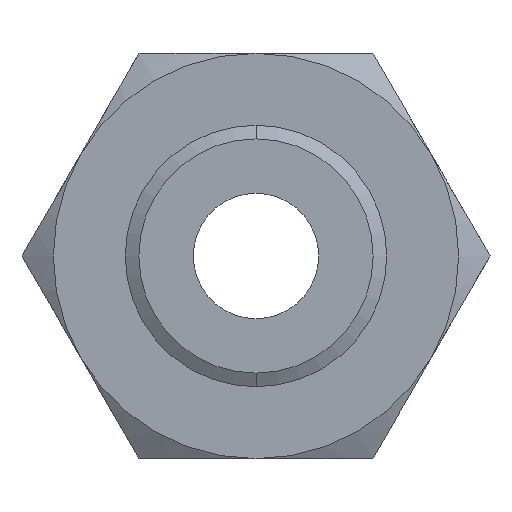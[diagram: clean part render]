
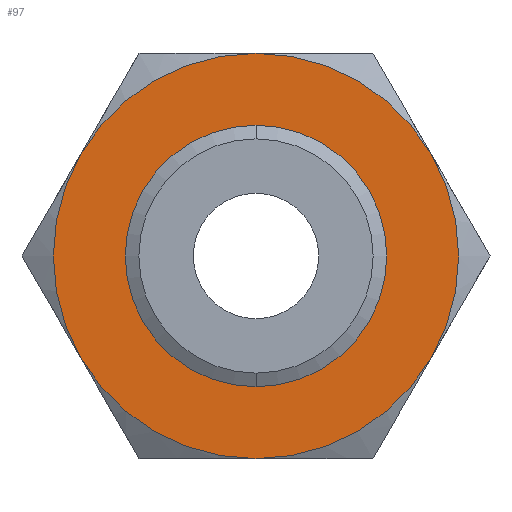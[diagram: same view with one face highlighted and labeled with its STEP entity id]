
A CAD part, front view. The second image highlights one B-rep face of the part: STEP entity #97.
In plain terms, the highlighted planar face has unit normal (0, -1, 0).
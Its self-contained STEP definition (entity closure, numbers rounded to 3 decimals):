
#97 = ADVANCED_FACE ( 'NONE', ( #1007, #1006 ), #1005, .F. ) ;
#105 = EDGE_LOOP ( 'NONE', ( #200, #197, #186, #198, #214, #185 ) ) ;
#112 = VERTEX_POINT ( 'NONE', #1043 ) ;
#116 = VERTEX_POINT ( 'NONE', #1039 ) ;
#185 = ORIENTED_EDGE ( 'NONE', *, *, #218, .F. ) ;
#186 = ORIENTED_EDGE ( 'NONE', *, *, #222, .F. ) ;
#197 = ORIENTED_EDGE ( 'NONE', *, *, #199, .F. ) ;
#198 = ORIENTED_EDGE ( 'NONE', *, *, #207, .F. ) ;
#199 = EDGE_CURVE ( 'NONE', #112, #206, #1142, .T. ) ;
#200 = ORIENTED_EDGE ( 'NONE', *, *, #216, .F. ) ;
#202 = VERTEX_POINT ( 'NONE', #1197 ) ;
#204 = VERTEX_POINT ( 'NONE', #1196 ) ;
#206 = VERTEX_POINT ( 'NONE', #1191 ) ;
#207 = EDGE_CURVE ( 'NONE', #204, #223, #1190, .T. ) ;
#214 = ORIENTED_EDGE ( 'NONE', *, *, #225, .F. ) ;
#216 = EDGE_CURVE ( 'NONE', #206, #116, #1174, .T. ) ;
#218 = EDGE_CURVE ( 'NONE', #116, #202, #1229, .T. ) ;
#219 = ORIENTED_EDGE ( 'NONE', *, *, #372, .F. ) ;
#222 = EDGE_CURVE ( 'NONE', #223, #112, #1221, .T. ) ;
#223 = VERTEX_POINT ( 'NONE', #1222 ) ;
#225 = EDGE_CURVE ( 'NONE', #202, #204, #1216, .T. ) ;
#227 = EDGE_LOOP ( 'NONE', ( #219, #240 ) ) ;
#235 = EDGE_CURVE ( 'NONE', #376, #375, #1253, .T. ) ;
#240 = ORIENTED_EDGE ( 'NONE', *, *, #235, .F. ) ;
#372 = EDGE_CURVE ( 'NONE', #375, #376, #1493, .T. ) ;
#375 = VERTEX_POINT ( 'NONE', #1485 ) ;
#376 = VERTEX_POINT ( 'NONE', #1484 ) ;
#1001 = DIRECTION ( 'NONE',  ( 0., 0., 1. ) ) ;
#1002 = DIRECTION ( 'NONE',  ( 0., 1., 0. ) ) ;
#1003 = CARTESIAN_POINT ( 'NONE',  ( 44.745, 0., -77.5 ) ) ;
#1004 = AXIS2_PLACEMENT_3D ( 'NONE', #1003, #1002, #1001 ) ;
#1005 = PLANE ( 'NONE',  #1004 ) ;
#1006 = FACE_BOUND ( 'NONE', #227, .T. ) ;
#1007 = FACE_OUTER_BOUND ( 'NONE', #105, .T. ) ;
#1039 = CARTESIAN_POINT ( 'NONE',  ( 67.117, 0., 38.75 ) ) ;
#1043 = CARTESIAN_POINT ( 'NONE',  ( -67.117, 0., 38.75 ) ) ;
#1138 = CARTESIAN_POINT ( 'NONE',  ( 0., 0., 0. ) ) ;
#1142 = CIRCLE ( 'NONE', #1200, 77.5 ) ;
#1170 = DIRECTION ( 'NONE',  ( 0., 0., 1. ) ) ;
#1171 = DIRECTION ( 'NONE',  ( 0., 1., 0. ) ) ;
#1172 = CARTESIAN_POINT ( 'NONE',  ( 0., 0., 0. ) ) ;
#1173 = AXIS2_PLACEMENT_3D ( 'NONE', #1172, #1171, #1170 ) ;
#1174 = CIRCLE ( 'NONE', #1173, 77.5 ) ;
#1186 = DIRECTION ( 'NONE',  ( 0., 0., 1. ) ) ;
#1187 = DIRECTION ( 'NONE',  ( 0., 1., 0. ) ) ;
#1188 = CARTESIAN_POINT ( 'NONE',  ( 0., 0., 0. ) ) ;
#1189 = AXIS2_PLACEMENT_3D ( 'NONE', #1188, #1187, #1186 ) ;
#1190 = CIRCLE ( 'NONE', #1189, 77.5 ) ;
#1191 = CARTESIAN_POINT ( 'NONE',  ( 0., 0., 77.5 ) ) ;
#1196 = CARTESIAN_POINT ( 'NONE',  ( 0., 0., -77.5 ) ) ;
#1197 = CARTESIAN_POINT ( 'NONE',  ( 67.117, 0., -38.75 ) ) ;
#1198 = DIRECTION ( 'NONE',  ( 0., 0., 1. ) ) ;
#1199 = DIRECTION ( 'NONE',  ( 0., 1., 0. ) ) ;
#1200 = AXIS2_PLACEMENT_3D ( 'NONE', #1138, #1199, #1198 ) ;
#1212 = DIRECTION ( 'NONE',  ( 0., 0., 1. ) ) ;
#1213 = DIRECTION ( 'NONE',  ( 0., 1., 0. ) ) ;
#1214 = CARTESIAN_POINT ( 'NONE',  ( 0., 0., 0. ) ) ;
#1215 = AXIS2_PLACEMENT_3D ( 'NONE', #1214, #1213, #1212 ) ;
#1216 = CIRCLE ( 'NONE', #1215, 77.5 ) ;
#1217 = DIRECTION ( 'NONE',  ( 0., 0., 1. ) ) ;
#1218 = DIRECTION ( 'NONE',  ( 0., 1., 0. ) ) ;
#1219 = CARTESIAN_POINT ( 'NONE',  ( 0., 0., 0. ) ) ;
#1220 = AXIS2_PLACEMENT_3D ( 'NONE', #1219, #1218, #1217 ) ;
#1221 = CIRCLE ( 'NONE', #1220, 77.5 ) ;
#1222 = CARTESIAN_POINT ( 'NONE',  ( -67.117, 0., -38.75 ) ) ;
#1225 = DIRECTION ( 'NONE',  ( 0., 0., 1. ) ) ;
#1226 = DIRECTION ( 'NONE',  ( 0., 1., 0. ) ) ;
#1227 = CARTESIAN_POINT ( 'NONE',  ( 0., 0., 0. ) ) ;
#1228 = AXIS2_PLACEMENT_3D ( 'NONE', #1227, #1226, #1225 ) ;
#1229 = CIRCLE ( 'NONE', #1228, 77.5 ) ;
#1249 = DIRECTION ( 'NONE',  ( 0., 0., -1. ) ) ;
#1250 = DIRECTION ( 'NONE',  ( 0., -1., 0. ) ) ;
#1251 = CARTESIAN_POINT ( 'NONE',  ( 0., 0., 0. ) ) ;
#1252 = AXIS2_PLACEMENT_3D ( 'NONE', #1251, #1250, #1249 ) ;
#1253 = CIRCLE ( 'NONE', #1252, 44.804 ) ;
#1484 = CARTESIAN_POINT ( 'NONE',  ( 0., 0., 44.804 ) ) ;
#1485 = CARTESIAN_POINT ( 'NONE',  ( 0., 0., -44.804 ) ) ;
#1486 = DIRECTION ( 'NONE',  ( 0., 0., -1. ) ) ;
#1487 = DIRECTION ( 'NONE',  ( 0., -1., 0. ) ) ;
#1488 = CARTESIAN_POINT ( 'NONE',  ( 0., 0., 0. ) ) ;
#1489 = AXIS2_PLACEMENT_3D ( 'NONE', #1488, #1487, #1486 ) ;
#1493 = CIRCLE ( 'NONE', #1489, 44.804 ) ;
